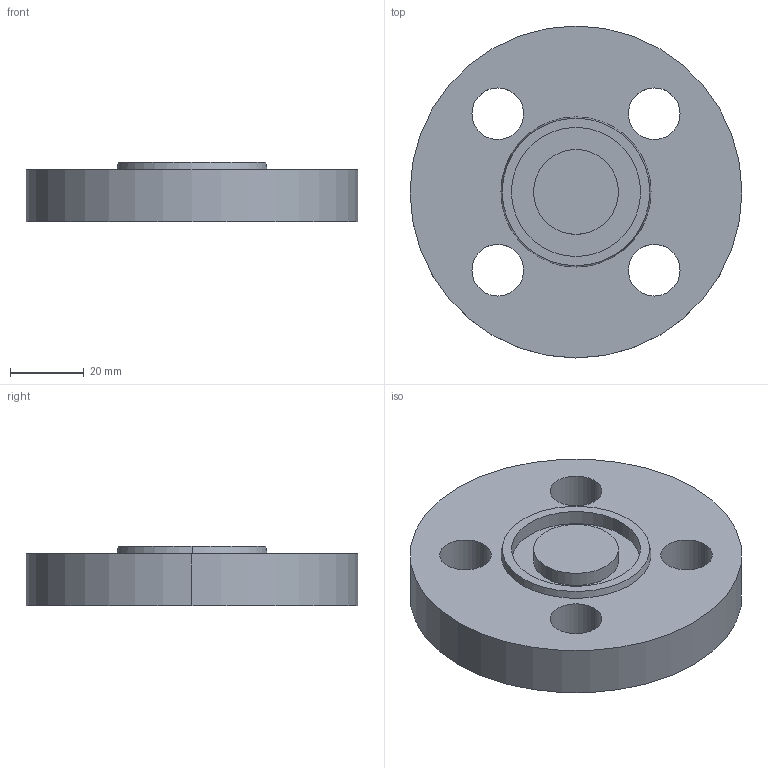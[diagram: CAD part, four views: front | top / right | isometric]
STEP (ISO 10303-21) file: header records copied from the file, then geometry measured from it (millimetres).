
FILE_DESCRIPTION (( 'STEP AP214' ), '1' );
FILE_NAME ('PN40 DN10 Type 05 - Type D Face.STEP', '2018-12-29T05:14:50', ( '' ), ( '' ), 'SwSTEP 2.0', 'SolidWorks 2019', '' );
FILE_SCHEMA (( 'AUTOMOTIVE_DESIGN' ));
Length unit declared in the file: millimetre
Products named in the file (1): PN40 DN10 Type 05 - Type D Face
Bounding box: 90 x 90 x 16 mm (x, y, z)
Volume: 80814.9 mm3; surface area: 18855 mm2
Topology: 1 solids, 1 shells, 21 faces, 48 edges, 32 vertices
Faces by surface type: cylinder 14, plane 5, cone 2
Entity records: 664 total; most frequent: DIRECTION 124, CARTESIAN_POINT 102, ORIENTED_EDGE 96, AXIS2_PLACEMENT_3D 54, EDGE_CURVE 48, CIRCLE 32, VERTEX_POINT 32, EDGE_LOOP 32
